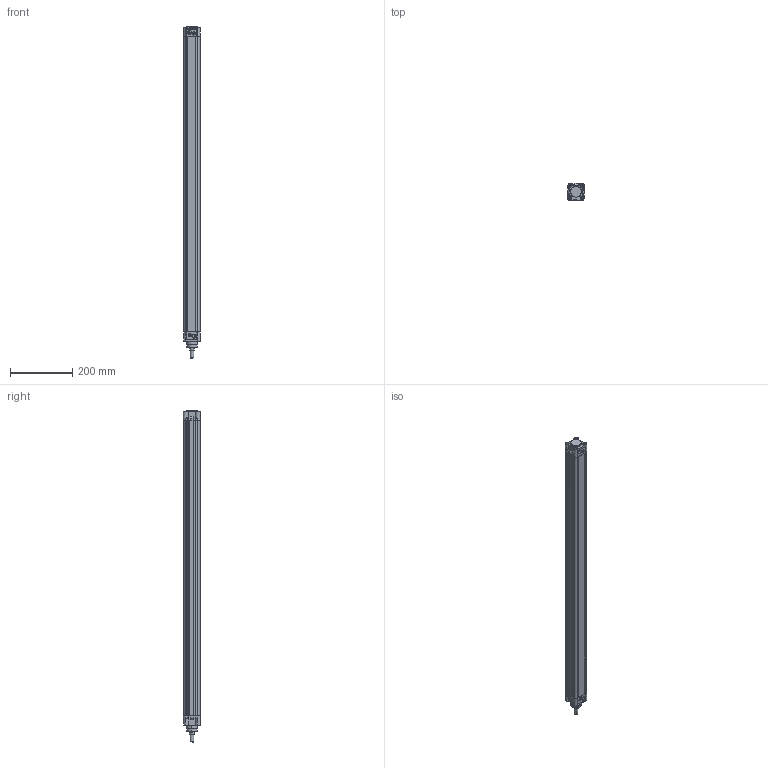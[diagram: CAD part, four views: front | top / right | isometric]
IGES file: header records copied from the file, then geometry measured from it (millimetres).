
Start section: SolidWorks IGES file using analytic representation for surfaces
Global section: file name: D:\ARICA 3D 禽Z軲LER\3D IGES\KDNC\KDNC40\KDNC40X900CYLINDER.IGS,1; native system: 5HSolidWorks 2013; preprocessor: SolidWorks 2013; author: user; date: 150303.145622; units: millimetre
Bounding box: 54.35 x 54.55 x 1063 mm (x, y, z)
Surface area: 552420.8 mm2 (no closed solid volume)
Topology: 0 solids, 0 shells, 668 faces, 10289 edges, 10280 vertices
Faces by surface type: revolution 365, bspline 303
